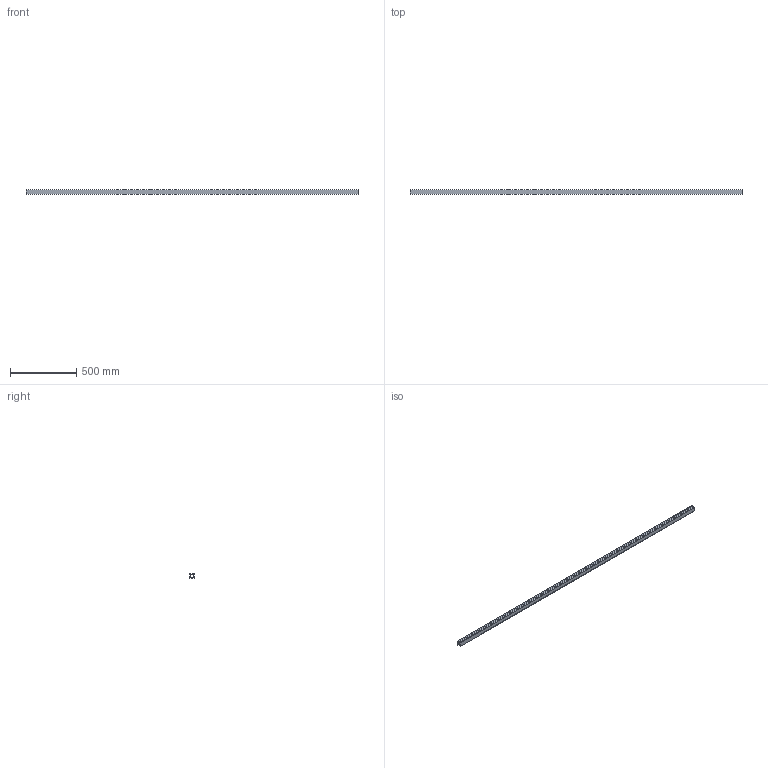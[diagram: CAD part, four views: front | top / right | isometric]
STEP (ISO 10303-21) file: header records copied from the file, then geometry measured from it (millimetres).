
FILE_DESCRIPTION(('STEP AP242'),'1');
FILE_NAME('OPO_65.081.02_volu_3d.stp','2026-01-30T20:48:42',(' '),(' '),'Spatial InterOp 3D',' ',' ');
FILE_SCHEMA(('AP242_MANAGED_MODEL_BASED_3D_ENGINEERING_MIM_LF {1 0 10303 442 1 1 4}'));
Length unit declared in the file: millimetre
Products named in the file (1): 1
Bounding box: 2500 x 33 x 33 mm (x, y, z)
Volume: 712968.7 mm3; surface area: 581597.3 mm2
Topology: 1 solids, 1 shells, 76 faces, 208 edges, 138 vertices
Faces by surface type: plane 56, cylinder 20
Entity records: 3020 total; most frequent: CARTESIAN_POINT 423, ORIENTED_EDGE 416, DIRECTION 402, EDGE_CURVE 208, LINE 168, VECTOR 168, VERTEX_POINT 138, AXIS2_PLACEMENT_3D 117
